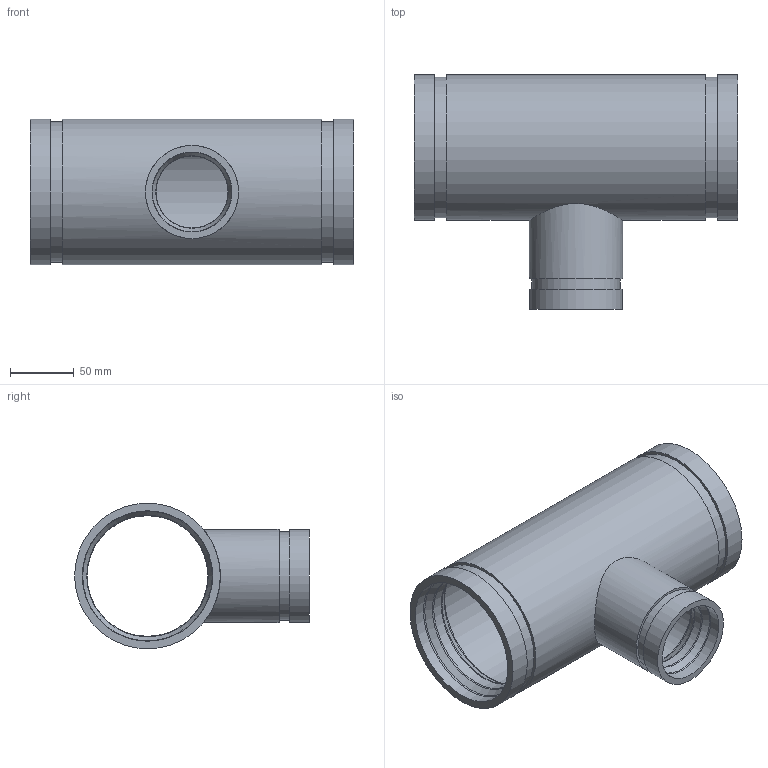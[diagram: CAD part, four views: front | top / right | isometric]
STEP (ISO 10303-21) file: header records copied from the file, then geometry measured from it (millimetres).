
FILE_DESCRIPTION(/* description */ ('VIC REDUCING TEE No 425H-SS','CAx-IF Rec.Pracs.---Representation and Presentation of Product Manufacturing Information (PMI)---4.0---2014-10-13'),/* implementation_level */ '2;1');
FILE_NAME(/* name */ 'C:\Users\kkamble\AppData\Roaming\Autodesk\ApplicationPlugins\Back Up\Victaulic_SS-OGS_Tee Reducing_Sched 40S_No 425H SS (OGS)\Victaulic_SS-OGS_Tee Reducing_Sched 40S_No 425H SS (OGS)_04.0x02.5 (100x65).stp',/* time_stamp */ '2020-08-27T17:19:54+06:00',/* author */ ('CORINNE GRAY'),/* organization */ ('Victaulic'),/* preprocessor_version */ 'ST-DEVELOPER v17.2',/* originating_system */ 'Autodesk Inventor 2019',/* authorisation */ '');
FILE_SCHEMA (('AP242_MANAGED_MODEL_BASED_3D_ENGINEERING_MIM_LF { 1 0 10303 442 1 1 4 }'));
Length unit declared in the file: inch
Products named in the file (1): 425H SS-04.0x02.5
Bounding box: 254 x 184.15 x 114.3 mm (x, y, z)
Volume: 608321.3 mm3; surface area: 207771.9 mm2
Topology: 1 solids, 1 shells, 43 faces, 134 edges, 100 vertices
Faces by surface type: cylinder 16, torus 12, plane 9, cone 6
Full cylindrical faces by diameter (mm): 56.388 x1, 62.738 x2, 69.088 x1, 73.025 x2, 94.64 x2, 102.362 x3, 110.084 x2, 114.3 x3
Entity records: 1919 total; most frequent: CARTESIAN_POINT 427, DIRECTION 352, ORIENTED_EDGE 268, AXIS2_PLACEMENT_3D 165, EDGE_CURVE 134, CIRCLE 108, VERTEX_POINT 100, EDGE_LOOP 54
